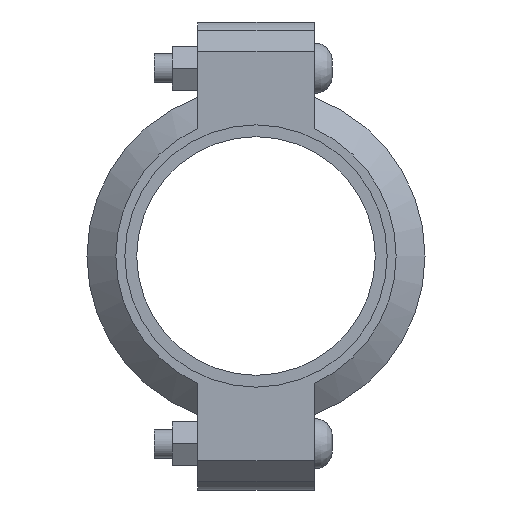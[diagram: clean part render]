
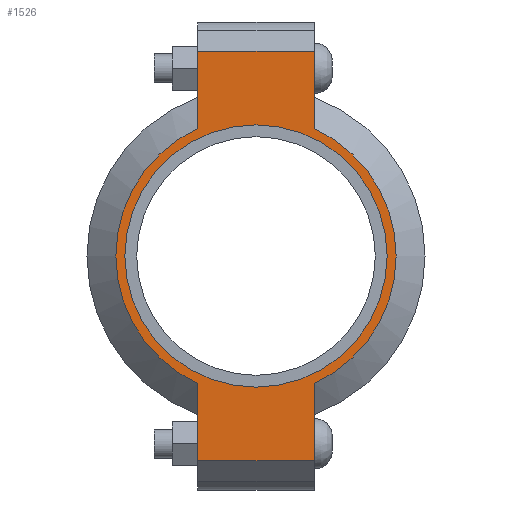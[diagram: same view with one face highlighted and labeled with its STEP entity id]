
A CAD part, left-side view. The second image highlights one B-rep face of the part: STEP entity #1526.
In plain terms, the highlighted planar face has unit normal (-1, 0, 0) as drawn and (0, 0, 1) by its records, which use the part's own axes.
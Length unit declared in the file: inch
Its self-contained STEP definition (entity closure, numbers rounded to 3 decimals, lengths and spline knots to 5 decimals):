
#150=LINE('',#2654,#243);
#158=LINE('',#2690,#251);
#165=LINE('',#2711,#258);
#174=LINE('',#2743,#267);
#175=LINE('',#2747,#268);
#176=LINE('',#2749,#269);
#243=VECTOR('',#2166,0.3937);
#251=VECTOR('',#2182,0.3937);
#258=VECTOR('',#2201,0.3937);
#267=VECTOR('',#2226,0.3937);
#268=VECTOR('',#2231,0.3937);
#269=VECTOR('',#2232,0.3937);
#325=FACE_BOUND('',#503,.T.);
#397=FACE_OUTER_BOUND('',#502,.T.);
#502=EDGE_LOOP('',(#1267,#1268,#1269,#1270,#1271,#1272,#1273,#1274));
#503=EDGE_LOOP('',(#1275));
#575=CIRCLE('',#1736,2.25);
#601=CIRCLE('',#1795,2.405);
#602=CIRCLE('',#1796,2.405);
#667=VERTEX_POINT('',#2470);
#710=VERTEX_POINT('',#2651);
#711=VERTEX_POINT('',#2653);
#722=VERTEX_POINT('',#2685);
#723=VERTEX_POINT('',#2689);
#730=VERTEX_POINT('',#2708);
#731=VERTEX_POINT('',#2710);
#741=VERTEX_POINT('',#2746);
#742=VERTEX_POINT('',#2748);
#823=EDGE_CURVE('',#667,#667,#575,.T.);
#884=EDGE_CURVE('',#711,#710,#150,.T.);
#898=EDGE_CURVE('',#723,#722,#158,.T.);
#908=EDGE_CURVE('',#731,#730,#165,.T.);
#923=EDGE_CURVE('',#723,#710,#174,.T.);
#924=EDGE_CURVE('',#722,#731,#601,.T.);
#925=EDGE_CURVE('',#741,#730,#175,.T.);
#926=EDGE_CURVE('',#741,#742,#176,.T.);
#927=EDGE_CURVE('',#742,#711,#602,.T.);
#1267=ORIENTED_EDGE('',*,*,#923,.F.);
#1268=ORIENTED_EDGE('',*,*,#898,.T.);
#1269=ORIENTED_EDGE('',*,*,#924,.T.);
#1270=ORIENTED_EDGE('',*,*,#908,.T.);
#1271=ORIENTED_EDGE('',*,*,#925,.F.);
#1272=ORIENTED_EDGE('',*,*,#926,.T.);
#1273=ORIENTED_EDGE('',*,*,#927,.T.);
#1274=ORIENTED_EDGE('',*,*,#884,.T.);
#1275=ORIENTED_EDGE('',*,*,#823,.T.);
#1368=PLANE('',#1794);
#1526=ADVANCED_FACE('',(#397,#325),#1368,.T.);
#1736=AXIS2_PLACEMENT_3D('',#2472,#2042,#2043);
#1794=AXIS2_PLACEMENT_3D('',#2744,#2227,#2228);
#1795=AXIS2_PLACEMENT_3D('',#2745,#2229,#2230);
#1796=AXIS2_PLACEMENT_3D('',#2750,#2233,#2234);
#2042=DIRECTION('center_axis',(0.,0.,-1.));
#2043=DIRECTION('ref_axis',(-1.,0.,0.));
#2166=DIRECTION('',(-1.,0.,0.));
#2182=DIRECTION('',(1.,0.,0.));
#2201=DIRECTION('',(1.,0.,0.));
#2226=DIRECTION('',(0.,1.,0.));
#2227=DIRECTION('center_axis',(0.,0.,1.));
#2228=DIRECTION('ref_axis',(1.,0.,0.));
#2229=DIRECTION('center_axis',(0.,0.,1.));
#2230=DIRECTION('ref_axis',(-1.,0.,0.));
#2231=DIRECTION('',(0.,-1.,0.));
#2232=DIRECTION('',(-1.,0.,0.));
#2233=DIRECTION('center_axis',(0.,0.,1.));
#2234=DIRECTION('ref_axis',(-1.,0.,0.));
#2470=CARTESIAN_POINT('',(2.25,0.,1.065));
#2472=CARTESIAN_POINT('Origin',(0.,0.,1.065));
#2651=CARTESIAN_POINT('',(-3.515,1.,1.065));
#2653=CARTESIAN_POINT('',(-2.18724,1.,1.065));
#2654=CARTESIAN_POINT('',(-4.015,1.,1.065));
#2685=CARTESIAN_POINT('',(-2.18724,-1.,1.065));
#2689=CARTESIAN_POINT('',(-3.515,-1.,1.065));
#2690=CARTESIAN_POINT('',(4.015,-1.,1.065));
#2708=CARTESIAN_POINT('',(3.515,-1.,1.065));
#2710=CARTESIAN_POINT('',(2.18724,-1.,1.065));
#2711=CARTESIAN_POINT('',(4.015,-1.,1.065));
#2743=CARTESIAN_POINT('',(-3.515,0.5,1.065));
#2744=CARTESIAN_POINT('Origin',(0.,0.,1.065));
#2745=CARTESIAN_POINT('Origin',(0.,0.,1.065));
#2746=CARTESIAN_POINT('',(3.515,1.,1.065));
#2747=CARTESIAN_POINT('',(3.515,-0.5,1.065));
#2748=CARTESIAN_POINT('',(2.18724,1.,1.065));
#2749=CARTESIAN_POINT('',(-4.015,1.,1.065));
#2750=CARTESIAN_POINT('Origin',(0.,0.,1.065));
